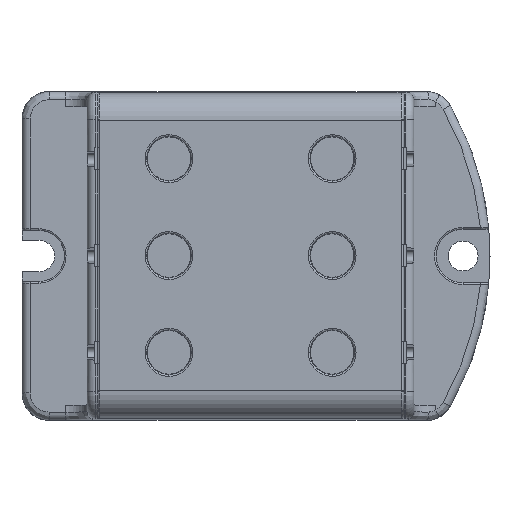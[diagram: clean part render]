
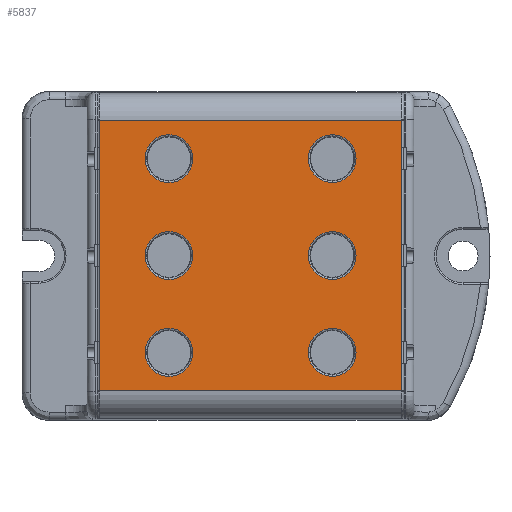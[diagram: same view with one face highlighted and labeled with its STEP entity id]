
A CAD part, top view. The second image highlights one B-rep face of the part: STEP entity #5837.
In plain terms, the highlighted planar face has unit normal (0, 0, 1).
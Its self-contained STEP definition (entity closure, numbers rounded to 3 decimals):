
#557=DIRECTION('',(0.,1.,0.));
#558=VECTOR('',#557,49.7);
#559=CARTESIAN_POINT('',(-27.8,-24.85,6.5));
#560=LINE('',#559,#558);
#561=DIRECTION('',(-1.,0.,0.));
#562=VECTOR('',#561,55.6);
#563=CARTESIAN_POINT('',(27.8,24.85,6.5));
#564=LINE('',#563,#562);
#565=DIRECTION('',(0.,-1.,0.));
#566=VECTOR('',#565,49.7);
#567=CARTESIAN_POINT('',(27.8,24.85,6.5));
#568=LINE('',#567,#566);
#569=CARTESIAN_POINT('',(-15.,-17.8,6.5));
#570=DIRECTION('',(0.,0.,-1.));
#571=DIRECTION('',(0.,1.,0.));
#572=AXIS2_PLACEMENT_3D('',#569,#570,#571);
#574=CARTESIAN_POINT('',(-15.,-17.8,6.5));
#575=DIRECTION('',(0.,0.,-1.));
#576=DIRECTION('',(0.,-1.,0.));
#577=AXIS2_PLACEMENT_3D('',#574,#575,#576);
#579=CARTESIAN_POINT('',(-15.,0.,6.5));
#580=DIRECTION('',(0.,0.,-1.));
#581=DIRECTION('',(0.,1.,0.));
#582=AXIS2_PLACEMENT_3D('',#579,#580,#581);
#584=CARTESIAN_POINT('',(-15.,0.,6.5));
#585=DIRECTION('',(0.,0.,-1.));
#586=DIRECTION('',(0.,-1.,0.));
#587=AXIS2_PLACEMENT_3D('',#584,#585,#586);
#589=CARTESIAN_POINT('',(-15.,17.8,6.5));
#590=DIRECTION('',(0.,0.,-1.));
#591=DIRECTION('',(0.,-1.,0.));
#592=AXIS2_PLACEMENT_3D('',#589,#590,#591);
#594=CARTESIAN_POINT('',(-15.,17.8,6.5));
#595=DIRECTION('',(0.,0.,-1.));
#596=DIRECTION('',(0.,1.,0.));
#597=AXIS2_PLACEMENT_3D('',#594,#595,#596);
#599=CARTESIAN_POINT('',(15.,-17.8,6.5));
#600=DIRECTION('',(0.,0.,-1.));
#601=DIRECTION('',(0.,-1.,0.));
#602=AXIS2_PLACEMENT_3D('',#599,#600,#601);
#604=CARTESIAN_POINT('',(15.,-17.8,6.5));
#605=DIRECTION('',(0.,0.,-1.));
#606=DIRECTION('',(0.,1.,0.));
#607=AXIS2_PLACEMENT_3D('',#604,#605,#606);
#609=CARTESIAN_POINT('',(15.,0.,6.5));
#610=DIRECTION('',(0.,0.,-1.));
#611=DIRECTION('',(0.,-1.,0.));
#612=AXIS2_PLACEMENT_3D('',#609,#610,#611);
#614=CARTESIAN_POINT('',(15.,0.,6.5));
#615=DIRECTION('',(0.,0.,-1.));
#616=DIRECTION('',(0.,1.,0.));
#617=AXIS2_PLACEMENT_3D('',#614,#615,#616);
#619=CARTESIAN_POINT('',(15.,17.8,6.5));
#620=DIRECTION('',(0.,0.,-1.));
#621=DIRECTION('',(0.,-1.,0.));
#622=AXIS2_PLACEMENT_3D('',#619,#620,#621);
#624=CARTESIAN_POINT('',(15.,17.8,6.5));
#625=DIRECTION('',(0.,0.,-1.));
#626=DIRECTION('',(0.,1.,0.));
#627=AXIS2_PLACEMENT_3D('',#624,#625,#626);
#745=DIRECTION('',(-1.,0.,0.));
#746=VECTOR('',#745,55.6);
#747=CARTESIAN_POINT('',(27.8,-24.85,6.5));
#748=LINE('',#747,#746);
#4902=CARTESIAN_POINT('',(-27.8,24.85,6.5));
#4903=VERTEX_POINT('',#4902);
#4906=CARTESIAN_POINT('',(-27.8,-24.85,6.5));
#4907=VERTEX_POINT('',#4906);
#4926=CARTESIAN_POINT('',(27.8,-24.85,6.5));
#4927=VERTEX_POINT('',#4926);
#4930=CARTESIAN_POINT('',(27.8,24.85,6.5));
#4931=VERTEX_POINT('',#4930);
#4940=CARTESIAN_POINT('',(-15.,-13.41,6.5));
#4941=CARTESIAN_POINT('',(-15.,-22.19,6.5));
#4942=VERTEX_POINT('',#4940);
#4943=VERTEX_POINT('',#4941);
#4948=CARTESIAN_POINT('',(-15.,4.39,6.5));
#4949=CARTESIAN_POINT('',(-15.,-4.39,6.5));
#4950=VERTEX_POINT('',#4948);
#4951=VERTEX_POINT('',#4949);
#4956=CARTESIAN_POINT('',(-15.,13.41,6.5));
#4957=CARTESIAN_POINT('',(-15.,22.19,6.5));
#4958=VERTEX_POINT('',#4956);
#4959=VERTEX_POINT('',#4957);
#4964=CARTESIAN_POINT('',(15.,-22.19,6.5));
#4965=CARTESIAN_POINT('',(15.,-13.41,6.5));
#4966=VERTEX_POINT('',#4964);
#4967=VERTEX_POINT('',#4965);
#4972=CARTESIAN_POINT('',(15.,-4.39,6.5));
#4973=CARTESIAN_POINT('',(15.,4.39,6.5));
#4974=VERTEX_POINT('',#4972);
#4975=VERTEX_POINT('',#4973);
#4980=CARTESIAN_POINT('',(15.,13.41,6.5));
#4981=CARTESIAN_POINT('',(15.,22.19,6.5));
#4982=VERTEX_POINT('',#4980);
#4983=VERTEX_POINT('',#4981);
#5787=CARTESIAN_POINT('',(28.1,24.85,6.5));
#5788=DIRECTION('',(0.,0.,1.));
#5789=DIRECTION('',(0.,-1.,0.));
#5790=AXIS2_PLACEMENT_3D('',#5787,#5788,#5789);
#5791=PLANE('',#5790);
#5793=ORIENTED_EDGE('',*,*,#5792,.T.);
#5795=ORIENTED_EDGE('',*,*,#5794,.F.);
#5797=ORIENTED_EDGE('',*,*,#5796,.T.);
#5799=ORIENTED_EDGE('',*,*,#5798,.T.);
#5800=EDGE_LOOP('',(#5793,#5795,#5797,#5799));
#5801=FACE_OUTER_BOUND('',#5800,.F.);
#5803=ORIENTED_EDGE('',*,*,#5802,.F.);
#5805=ORIENTED_EDGE('',*,*,#5804,.F.);
#5806=EDGE_LOOP('',(#5803,#5805));
#5807=FACE_BOUND('',#5806,.F.);
#5809=ORIENTED_EDGE('',*,*,#5808,.F.);
#5811=ORIENTED_EDGE('',*,*,#5810,.F.);
#5812=EDGE_LOOP('',(#5809,#5811));
#5813=FACE_BOUND('',#5812,.F.);
#5815=ORIENTED_EDGE('',*,*,#5814,.F.);
#5817=ORIENTED_EDGE('',*,*,#5816,.F.);
#5818=EDGE_LOOP('',(#5815,#5817));
#5819=FACE_BOUND('',#5818,.F.);
#5820=ORIENTED_EDGE('',*,*,#5777,.F.);
#5822=ORIENTED_EDGE('',*,*,#5821,.F.);
#5823=EDGE_LOOP('',(#5820,#5822));
#5824=FACE_BOUND('',#5823,.F.);
#5826=ORIENTED_EDGE('',*,*,#5825,.F.);
#5828=ORIENTED_EDGE('',*,*,#5827,.F.);
#5829=EDGE_LOOP('',(#5826,#5828));
#5830=FACE_BOUND('',#5829,.F.);
#5832=ORIENTED_EDGE('',*,*,#5831,.F.);
#5834=ORIENTED_EDGE('',*,*,#5833,.F.);
#5835=EDGE_LOOP('',(#5832,#5834));
#5836=FACE_BOUND('',#5835,.F.);
#573=CIRCLE('',#572,4.39);
#578=CIRCLE('',#577,4.39);
#583=CIRCLE('',#582,4.39);
#588=CIRCLE('',#587,4.39);
#593=CIRCLE('',#592,4.39);
#598=CIRCLE('',#597,4.39);
#603=CIRCLE('',#602,4.39);
#608=CIRCLE('',#607,4.39);
#613=CIRCLE('',#612,4.39);
#618=CIRCLE('',#617,4.39);
#623=CIRCLE('',#622,4.39);
#628=CIRCLE('',#627,4.39);
#5777=EDGE_CURVE('',#4966,#4967,#603,.T.);
#5792=EDGE_CURVE('',#4907,#4903,#560,.T.);
#5794=EDGE_CURVE('',#4931,#4903,#564,.T.);
#5796=EDGE_CURVE('',#4931,#4927,#568,.T.);
#5798=EDGE_CURVE('',#4927,#4907,#748,.T.);
#5802=EDGE_CURVE('',#4942,#4943,#573,.T.);
#5804=EDGE_CURVE('',#4943,#4942,#578,.T.);
#5808=EDGE_CURVE('',#4950,#4951,#583,.T.);
#5810=EDGE_CURVE('',#4951,#4950,#588,.T.);
#5814=EDGE_CURVE('',#4958,#4959,#593,.T.);
#5816=EDGE_CURVE('',#4959,#4958,#598,.T.);
#5821=EDGE_CURVE('',#4967,#4966,#608,.T.);
#5825=EDGE_CURVE('',#4974,#4975,#613,.T.);
#5827=EDGE_CURVE('',#4975,#4974,#618,.T.);
#5831=EDGE_CURVE('',#4982,#4983,#623,.T.);
#5833=EDGE_CURVE('',#4983,#4982,#628,.T.);
#5837=ADVANCED_FACE('',(#5801,#5807,#5813,#5819,#5824,#5830,#5836),#5791,.T.);
